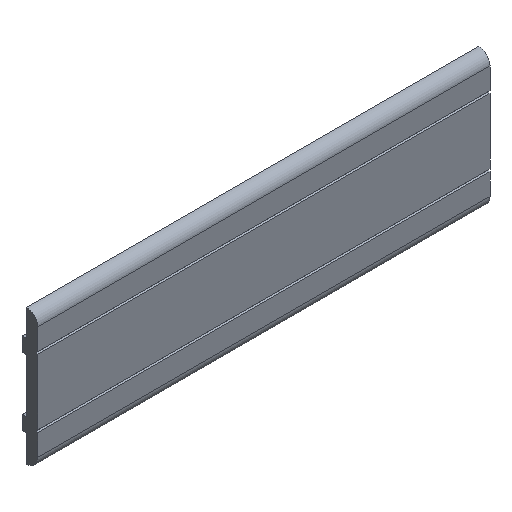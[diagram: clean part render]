
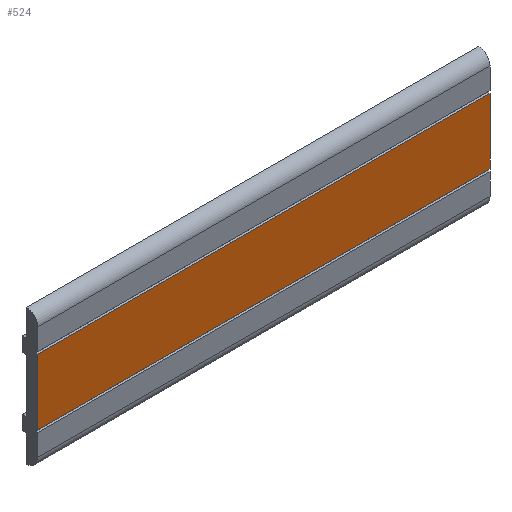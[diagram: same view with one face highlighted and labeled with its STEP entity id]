
A CAD part, isometric view. The second image highlights one B-rep face of the part: STEP entity #524.
In plain terms, the highlighted planar face has unit normal (0, -1, 0).
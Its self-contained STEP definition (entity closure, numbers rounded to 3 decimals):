
#27=ORIENTED_EDGE('',*,*,#135,.F.);
#28=ORIENTED_EDGE('',*,*,#136,.T.);
#29=ORIENTED_EDGE('',*,*,#137,.F.);
#30=ORIENTED_EDGE('',*,*,#138,.T.);
#135=EDGE_CURVE('',#189,#190,#225,.T.);
#136=EDGE_CURVE('',#189,#191,#226,.T.);
#137=EDGE_CURVE('',#192,#191,#227,.T.);
#138=EDGE_CURVE('',#192,#190,#228,.T.);
#189=VERTEX_POINT('',#676);
#190=VERTEX_POINT('',#677);
#191=VERTEX_POINT('',#679);
#192=VERTEX_POINT('',#681);
#225=LINE('',#675,#275);
#226=LINE('',#678,#276);
#227=LINE('',#680,#277);
#228=LINE('',#682,#278);
#275=VECTOR('',#577,1000.);
#276=VECTOR('',#578,1000.);
#277=VECTOR('',#579,1000.);
#278=VECTOR('',#580,1000.);
#325=EDGE_LOOP('',(#27,#28,#29,#30));
#345=FACE_BOUND('',#325,.T.);
#365=PLANE('',#549);
#524=ADVANCED_FACE('',(#345),#365,.T.);
#549=AXIS2_PLACEMENT_3D('',#674,#575,#576);
#575=DIRECTION('',(0.,-1.,0.));
#576=DIRECTION('',(0.,0.,-1.));
#577=DIRECTION('',(1.,0.,0.));
#578=DIRECTION('',(0.,0.,-1.));
#579=DIRECTION('',(-1.,0.,0.));
#580=DIRECTION('',(0.,0.,1.));
#674=CARTESIAN_POINT('',(0.,0.,0.));
#675=CARTESIAN_POINT('',(-108.923,0.,14.5));
#676=CARTESIAN_POINT('',(-100.,0.,14.5));
#677=CARTESIAN_POINT('',(100.,0.,14.5));
#678=CARTESIAN_POINT('',(-100.,0.,30.));
#679=CARTESIAN_POINT('',(-100.,0.,-14.5));
#680=CARTESIAN_POINT('',(0.,0.,-14.5));
#681=CARTESIAN_POINT('',(100.,0.,-14.5));
#682=CARTESIAN_POINT('',(100.,0.,-30.));
